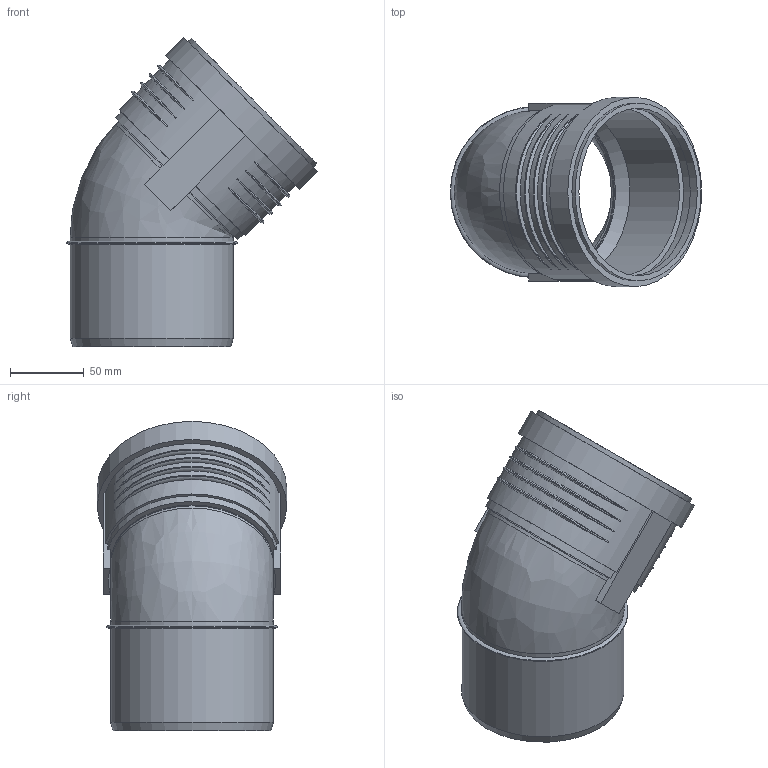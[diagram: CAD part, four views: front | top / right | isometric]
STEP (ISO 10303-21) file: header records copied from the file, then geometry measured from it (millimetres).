
FILE_DESCRIPTION(/* description */ (''),/* implementation_level */ '2;1');
FILE_NAME(/* name */ 'Z:\Geberit\Export\NewStep\390522.stp',/* time_stamp */ '2014-04-02T08:14:09+02:00',/* author */ ('ML'),/* organization */ (''),/* preprocessor_version */ 'ST-DEVELOPER v15.2',/* originating_system */ 'Autodesk Inventor 2014',/* authorisation */ '');
FILE_SCHEMA (('AUTOMOTIVE_DESIGN { 1 0 10303 214 3 1 1 }'));
Length unit declared in the file: millimetre
Products named in the file (3): 861333; 861404; 390522
Bounding box: 170.06 x 128.1 x 209.13 mm (x, y, z)
Volume: 267748.8 mm3; surface area: 155353.1 mm2
Topology: 2 solids, 2 shells, 68 faces, 162 edges, 109 vertices
Faces by surface type: torus 28, plane 19, cylinder 18, cone 2, bspline 1
Full cylindrical faces by diameter (mm): 103 x2, 103.2 x1, 110.2 x4, 113.3 x2, 120.3 x1, 121.1 x1, 128.1 x1
Entity records: 2726 total; most frequent: CARTESIAN_POINT 1150, DIRECTION 290, ORIENTED_EDGE 278, EDGE_CURVE 139, AXIS2_PLACEMENT_3D 127, VERTEX_POINT 106, EDGE_LOOP 103, STYLED_ITEM 70
